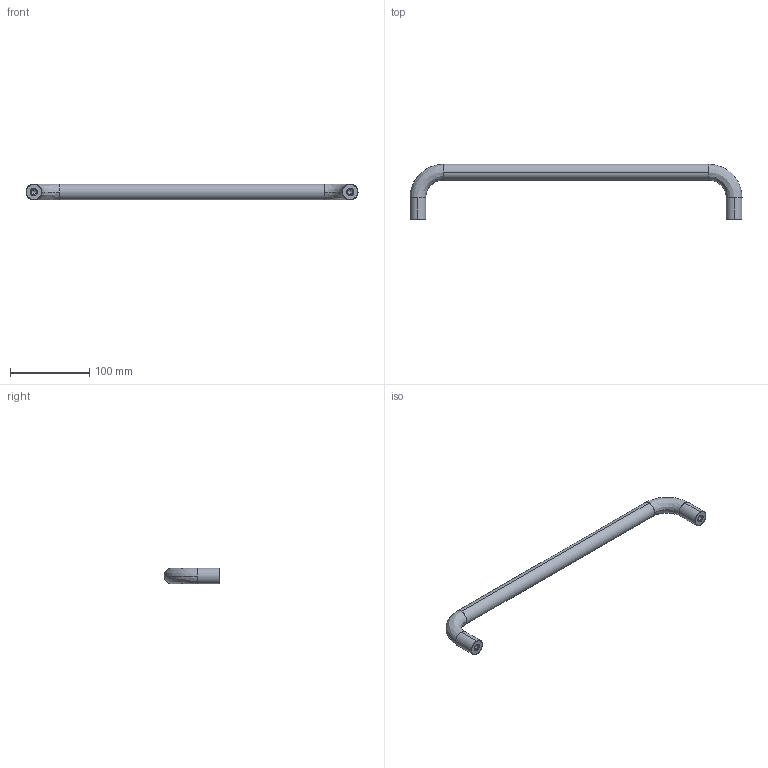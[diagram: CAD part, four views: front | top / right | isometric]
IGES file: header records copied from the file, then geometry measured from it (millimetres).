
Start section: SolidWorks IGES FILE using analytic representation for surfaces
Global section: file name: C:\WIX2\Knobs\7872\7872.W300-1.igs; native system: SolidWorks 2003 by SolidWorks Corporation; preprocessor: Version 5.3; author: Joan; date: 030722.094258; units: millimetre
Bounding box: 420 x 70 x 20 mm (x, y, z)
Surface area: 32496.3 mm2 (no closed solid volume)
Topology: 0 solids, 0 shells, 32 faces, 252 edges, 248 vertices
Faces by surface type: revolution 18, bspline 14
